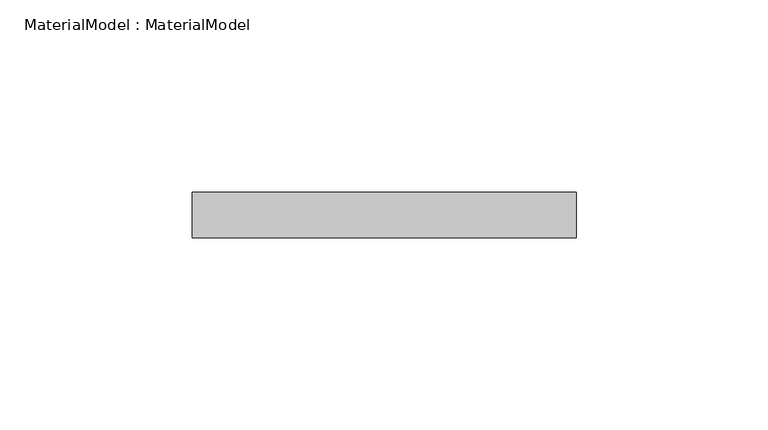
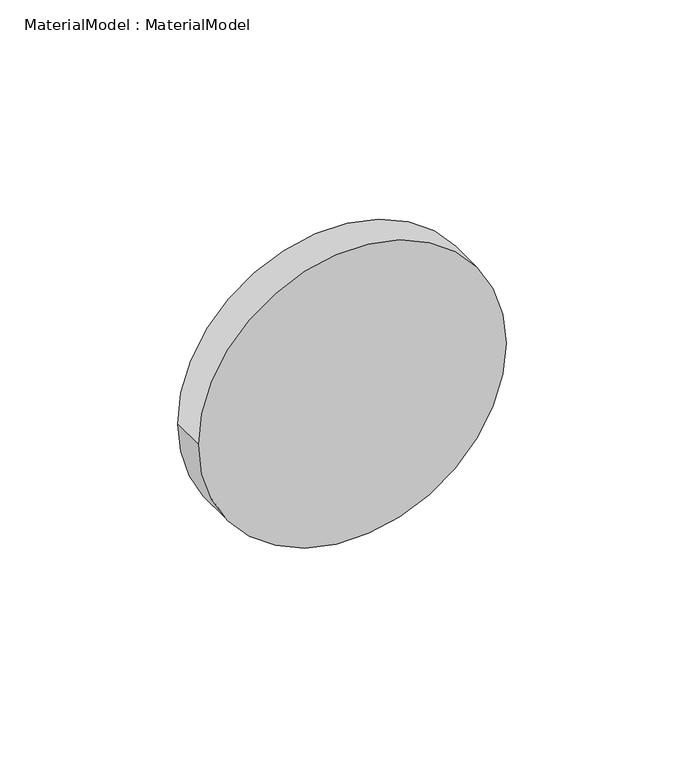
"""IFC4 building model written with IfcOpenShell, lengths in millimetres: proxy geometry, MaterialModel : MaterialModel."""

import ifcopenshell
import ifcopenshell.guid

model = None  # the IFC model being written
_history = None  # IfcOwnerHistory: only IFC2X3 demands one
_inside = {}  # id of a spatial element -> (the spatial element, [elements in it])
_under = {}  # id of a project, library or spatial element -> (it, [spatial elements below it])
_declared = {}  # id of a project -> (the project, [libraries it declares])
_typed = {}  # id of a type object -> (the type object, [elements of that type])
_made_of = {}  # id of a material, layer set ... -> (it, [elements and type objects made of it])


def new_model(schema):
    """Start an empty IFC model of exactly this schema.

    Asked for "IFC4X3", IfcOpenShell would pick the latest addendum, in which some entities
    have other attributes; the version numbers below select the first issue.
    IFC2X3 requires an IfcOwnerHistory on every rooted entity: one is made here for all.
    """
    global model, _history
    if schema == "IFC4X3":
        model = ifcopenshell.file(schema_version=(4, 3, 0, 0))
    else:
        model = ifcopenshell.file(schema=schema)
    _inside.clear()
    _under.clear()
    _declared.clear()
    _typed.clear()
    _made_of.clear()
    _history = None
    if model.schema == "IFC2X3":
        org = make("IfcOrganization", Name="unknown")
        user = make(
            "IfcPersonAndOrganization",
            ThePerson=make("IfcPerson", FamilyName="unknown"),
            TheOrganization=org,
        )
        app = make(
            "IfcApplication",
            ApplicationDeveloper=org,
            Version="unknown",
            ApplicationFullName="unknown",
            ApplicationIdentifier="unknown",
        )
        _history = make(
            "IfcOwnerHistory",
            OwningUser=user,
            OwningApplication=app,
            ChangeAction="ADDED",
            CreationDate=0,
        )
    return model


def make(cls, **values):
    """One entity of the class cls with the attributes given. An attribute that is None is left unset."""
    return model.create_entity(
        cls, **{name: value for name, value in values.items() if value is not None}
    )


def rooted(cls, **values):
    """An entity with a GlobalId (a new one), such as an element, a storey or a relation."""
    return make(cls, GlobalId=ifcopenshell.guid.new(), OwnerHistory=_history, **values)


def si_unit(unit_type, name, prefix=None):
    """IfcSIUnit, for example si_unit("LENGTHUNIT", "METRE", prefix="MILLI")."""
    return make("IfcSIUnit", UnitType=unit_type, Prefix=prefix, Name=name)


def assignment(units):
    """IfcUnitAssignment: the units of a project."""
    return None if units is None else make("IfcUnitAssignment", Units=units)


def point(xyz):
    """IfcCartesianPoint."""
    return None if xyz is None else make("IfcCartesianPoint", Coordinates=xyz)


def direction(xyz):
    """IfcDirection."""
    return None if xyz is None else make("IfcDirection", DirectionRatios=xyz)


def frame(location, z_axis=None, x_axis=None):
    """IfcAxis2Placement3D, a coordinate frame: its origin and axes. An axis left out is left unset."""
    return make(
        "IfcAxis2Placement3D",
        Location=point(location),
        Axis=direction(z_axis),
        RefDirection=direction(x_axis),
    )


def frame_2d(location, x_axis=None):
    """IfcAxis2Placement2D, a coordinate frame in the plane: its origin and x axis."""
    return make(
        "IfcAxis2Placement2D", Location=point(location), RefDirection=direction(x_axis)
    )


def origin():
    """The frame at (0, 0, 0) with its axes left unset."""
    return frame((0.0, 0.0, 0.0))


def place(relative_to, where):
    """IfcLocalPlacement: puts the frame where relative to a parent placement (None: the world)."""
    return make(
        "IfcLocalPlacement", PlacementRelTo=relative_to, RelativePlacement=where
    )


def context(
    kind, dimensions, precision=None, world=None, true_north=None, identifier=None
):
    """IfcGeometricRepresentationContext, for example the 3D "Model" context."""
    return make(
        "IfcGeometricRepresentationContext",
        ContextIdentifier=identifier,
        ContextType=kind,
        CoordinateSpaceDimension=dimensions,
        Precision=precision,
        WorldCoordinateSystem=world,
        TrueNorth=true_north,
    )


def project(units=None, contexts=None):
    """IfcProject with its units and contexts."""
    return rooted(
        "IfcProject",
        Name="project",
        RepresentationContexts=contexts,
        UnitsInContext=assignment(units),
    )


def spatial(cls, under=None, at=None, **own):
    """A site, building, storey or space (cls), placed at a placement, below another one or the project."""
    s = rooted(cls, ObjectPlacement=at, **own)
    if under is not None:
        _under.setdefault(under.id(), (under, []))[1].append(s)
    return s


def circle_curve(where, radius):
    """IfcCircle in the frame where."""
    return make("IfcCircle", Position=where, Radius=radius)


def trimmed(basis, trim1, trim2, sense, master):
    """IfcTrimmedCurve: the piece of a basis curve between two trims."""
    return make(
        "IfcTrimmedCurve",
        BasisCurve=basis,
        Trim1=trim1,
        Trim2=trim2,
        SenseAgreement=sense,
        MasterRepresentation=master,
    )


def segment(curve, same_sense, transition):
    """IfcCompositeCurveSegment."""
    return make(
        "IfcCompositeCurveSegment",
        Transition=transition,
        SameSense=same_sense,
        ParentCurve=curve,
    )


def composite_curve(segments, self_intersect=None):
    """IfcCompositeCurve: segments joined end to end."""
    return make("IfcCompositeCurve", Segments=segments, SelfIntersect=self_intersect)


def outline(outer, holes=None, kind="AREA"):
    """IfcArbitraryClosedProfileDef: a profile drawn as a closed curve; with holes, ...WithVoids."""
    if holes is None:
        return make("IfcArbitraryClosedProfileDef", ProfileType=kind, OuterCurve=outer)
    return make(
        "IfcArbitraryProfileDefWithVoids",
        ProfileType=kind,
        OuterCurve=outer,
        InnerCurves=holes,
    )


def extrude(swept, where, along, depth):
    """IfcExtrudedAreaSolid: the profile swept, set in the frame where, extruded along a direction by depth."""
    return make(
        "IfcExtrudedAreaSolid",
        SweptArea=swept,
        Position=where,
        ExtrudedDirection=direction(along),
        Depth=depth,
    )


def shape(context_of_items, identifier, shape_type, items):
    """IfcShapeRepresentation: the items that make up one representation, for example the "Body"."""
    return make(
        "IfcShapeRepresentation",
        ContextOfItems=context_of_items,
        RepresentationIdentifier=identifier,
        RepresentationType=shape_type,
        Items=items,
    )


def source(mapping_origin, context_of_items, identifier, shape_type, items):
    """IfcRepresentationMap: a shape defined once, which mapped items show again and again."""
    return make(
        "IfcRepresentationMap",
        MappingOrigin=mapping_origin,
        MappedRepresentation=shape(context_of_items, identifier, shape_type, items),
    )


def transform(
    local_origin,
    x_axis=None,
    y_axis=None,
    z_axis=None,
    scale=None,
    scale2=None,
    scale3=None,
    uniform=True,
):
    """IfcCartesianTransformationOperator3D, or its non-uniform kind. x_axis, y_axis, z_axis: its Axis1, 2, 3."""
    if uniform:
        return make(
            "IfcCartesianTransformationOperator3D",
            Axis1=direction(x_axis),
            Axis2=direction(y_axis),
            LocalOrigin=point(local_origin),
            Scale=scale,
            Axis3=direction(z_axis),
        )
    return make(
        "IfcCartesianTransformationOperator3DnonUniform",
        Axis1=direction(x_axis),
        Axis2=direction(y_axis),
        LocalOrigin=point(local_origin),
        Scale=scale,
        Axis3=direction(z_axis),
        Scale2=scale2,
        Scale3=scale3,
    )


def mapped(mapping_source, mapping_target):
    """IfcMappedItem: shows the shape of a source again, moved by a transform."""
    return make(
        "IfcMappedItem", MappingSource=mapping_source, MappingTarget=mapping_target
    )


def made_of(thing, what):
    """Note that an element or type object is made of a material, layer set ...; save() writes the relation."""
    if what is not None:
        _made_of.setdefault(what.id(), (what, []))[1].append(thing)
    return thing


def element(
    cls,
    number,
    at=None,
    inside=None,
    cuts=None,
    type_object=None,
    material=None,
    context=None,
    identifier="Body",
    shape_type=None,
    held_by="IfcProductDefinitionShape",
    body=None,
    shapes=None,
    **own,
):
    """One element of the class cls, such as IfcWall. Its Tag is "e" and its number.

    at: its placement. inside: the storey or other place that contains it. cuts: it is an
    opening in that element (IfcRelVoidsElement). A single representation is given by context,
    identifier, shape_type and body (its items); several are given by shapes. held_by: the class
    of the entity that holds the representations. save() writes the other relations.
    """
    e = rooted(cls, Tag="e%d" % number, ObjectPlacement=at, **own)
    if body is not None:
        shapes = [shape(context, identifier, shape_type, body)]
    if shapes is not None:
        e.Representation = make(held_by, Representations=shapes)
    if inside is not None:
        _inside.setdefault(inside.id(), (inside, []))[1].append(e)
    if cuts is not None:
        rooted(
            "IfcRelVoidsElement", RelatingBuildingElement=cuts, RelatedOpeningElement=e
        )
    if type_object is not None:
        _typed.setdefault(type_object.id(), (type_object, []))[1].append(e)
    return made_of(e, material)


def aggregate(whole, parts):
    """IfcRelAggregates: a whole, such as a stair, and the parts it consists of."""
    return rooted("IfcRelAggregates", RelatingObject=whole, RelatedObjects=parts)


def save(model, path):
    """Write the relations noted so far, then the file.

    IfcRelAggregates (storeys below a building ...), IfcRelContainedInSpatialStructure (elements
    in a storey), IfcRelDefinesByType, IfcRelAssociatesMaterial and IfcRelDeclares: one each for
    every whole, place, type object, material and project.
    """
    for whole, parts in _under.values():
        aggregate(whole, parts)
    for where, things in _inside.values():
        rooted(
            "IfcRelContainedInSpatialStructure",
            RelatedElements=things,
            RelatingStructure=where,
        )
    for kind, things in _typed.values():
        rooted("IfcRelDefinesByType", RelatedObjects=things, RelatingType=kind)
    for what, things in _made_of.values():
        rooted("IfcRelAssociatesMaterial", RelatedObjects=things, RelatingMaterial=what)
    for by, libraries in _declared.values():
        rooted("IfcRelDeclares", RelatingContext=by, RelatedDefinitions=libraries)
    model.write(path)


def materialmodel_materialmodel_73a78689(model_context):
    return source(origin(), model_context, "Body", "SweptSolid", [
        extrude(outline(composite_curve([segment(trimmed(circle_curve(frame_2d((75.0, 0.0)), 50.0), [point((75.0, -50.0))], [point((75.0, 50.0))], False, "CARTESIAN"), True, "CONTINUOUS"), segment(trimmed(circle_curve(frame_2d((75.0, 0.0)), 50.0), [point((75.0, 50.0))], [point((75.0, -50.0))], False, "CARTESIAN"), True, "CONTINUOUS")], self_intersect=False)), frame((0.0, -11.8565782, 0.0), z_axis=(0.0, 1.0, 0.0), x_axis=(0.0, 0.0, 1.0)), (0.0, 0.0, 1.0), 11.8565782),
    ])


if __name__ == "__main__":
    model = new_model("IFC4")
    model_context = context("Model", 3, world=origin())
    ifc_project = project(units=[si_unit("LENGTHUNIT", "METRE", prefix="MILLI")], contexts=[model_context])
    site = spatial("IfcSite", under=ifc_project)
    building = spatial("IfcBuilding", under=site)
    placement = place(None, origin())
    materialmodel_materialmodel_shape = materialmodel_materialmodel_73a78689(model_context)
    element("IfcBuildingElementProxy", 1, Name="MaterialModel : MaterialModel", ObjectType="MaterialModel : MaterialModel", at=placement, inside=building, context=model_context, shape_type="MappedRepresentation", body=[
        mapped(materialmodel_materialmodel_shape, transform((0.0, 0.0, 0.0), x_axis=(1.0, 0.0, 0.0), y_axis=(0.0, 1.0, 0.0), z_axis=(0.0, 0.0, 1.0))),
    ])
    save(model, "model.ifc")
